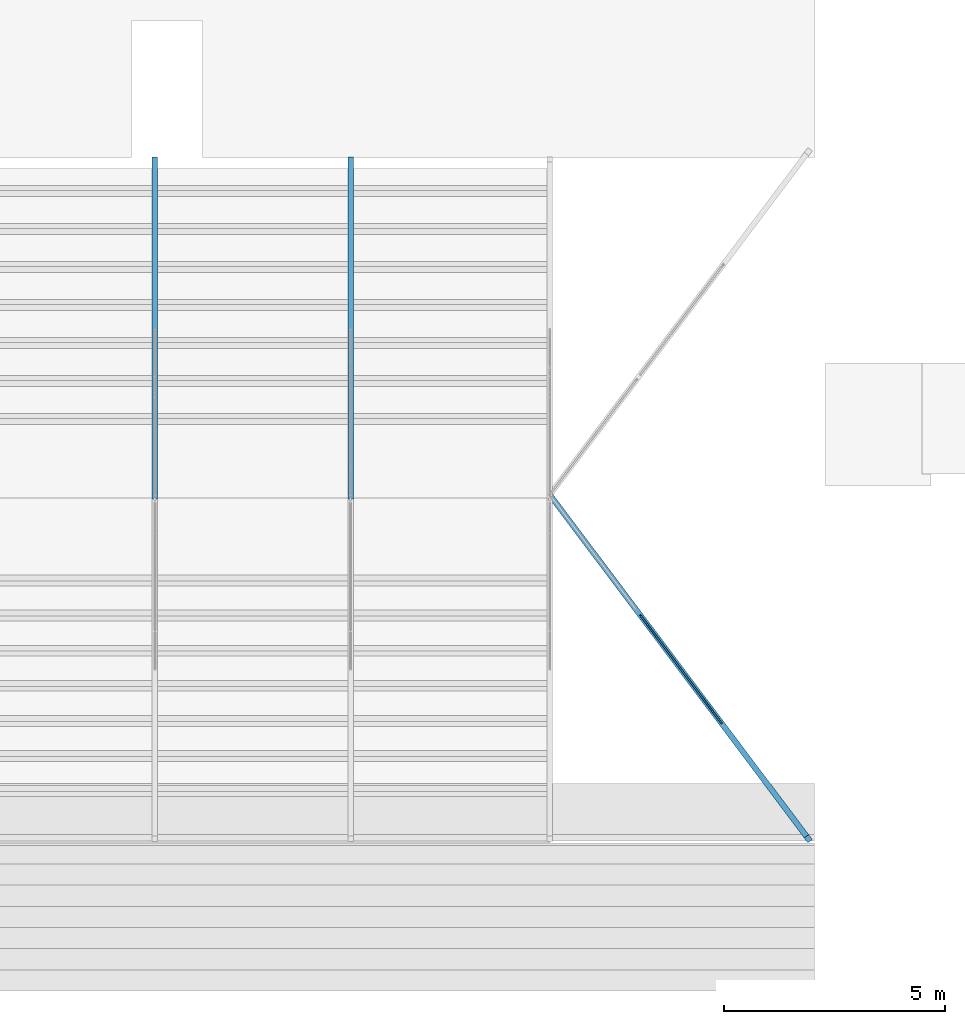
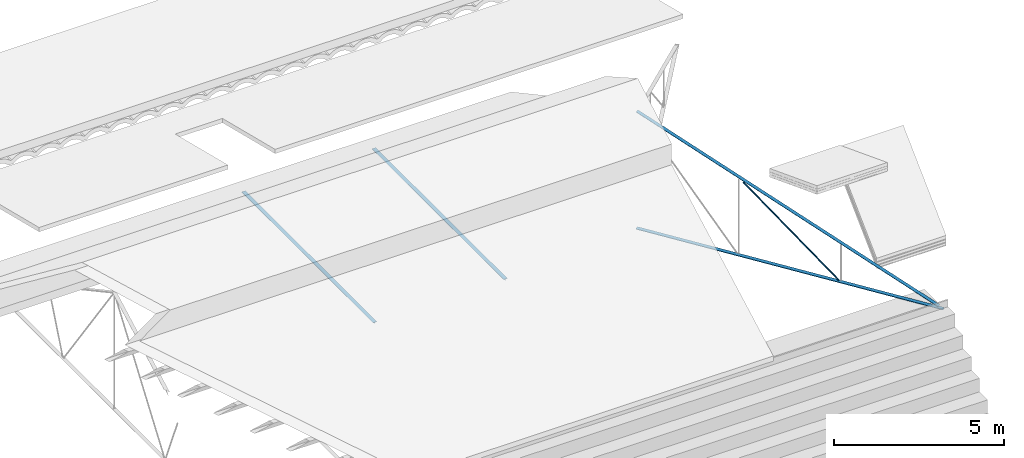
# One storey, part 9 of 15: 4 beams, 1 member, 3 elements without a shape of their own.
"""IFC4 building model written with IfcOpenShell, lengths in metres."""

from ifc_helpers import new_model, entity, si_unit, converted_unit, derived_unit, direction, frame, origin, place, context, subcontext, project, spatial, line, arc, indexed_curve, outline, extrude, source, transform, mapped, material, type_object, type_shapes, element, aggregate, save


model = new_model("IFC4")

# Units and contexts
model_context = context("Model", 3, precision=1e-05, world=origin(), true_north=direction((6.123031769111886e-17, 1.0)))
body_context = subcontext(model_context, "Body", "Model", "MODEL_VIEW")
ifc_project = project(units=[si_unit("LENGTHUNIT", "METRE"), si_unit("AREAUNIT", "SQUARE_METRE"), si_unit("VOLUMEUNIT", "CUBIC_METRE"), converted_unit("PLANEANGLEUNIT", "DEGREE", entity("IfcRatioMeasure", 0.017453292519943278), si_unit("PLANEANGLEUNIT", "RADIAN"), dimensions=[0, 0, 0, 0, 0, 0, 0]), si_unit("MASSUNIT", "GRAM", prefix="KILO"), derived_unit("MASSDENSITYUNIT", [(si_unit("MASSUNIT", "GRAM", prefix="KILO"), 1), (si_unit("LENGTHUNIT", "METRE"), -3)]), derived_unit("MOMENTOFINERTIAUNIT", [(si_unit("LENGTHUNIT", "METRE"), 4)]), si_unit("TIMEUNIT", "SECOND"), si_unit("FREQUENCYUNIT", "HERTZ"), si_unit("THERMODYNAMICTEMPERATUREUNIT", "DEGREE_CELSIUS"), derived_unit("THERMALTRANSMITTANCEUNIT", [(si_unit("MASSUNIT", "GRAM", prefix="KILO"), 1), (si_unit("THERMODYNAMICTEMPERATUREUNIT", "KELVIN"), -1), (si_unit("TIMEUNIT", "SECOND"), -3)]), derived_unit("VOLUMETRICFLOWRATEUNIT", [(si_unit("LENGTHUNIT", "METRE"), 3), (si_unit("TIMEUNIT", "SECOND"), -1)]), derived_unit("MASSFLOWRATEUNIT", [(si_unit("MASSUNIT", "GRAM", prefix="KILO"), 1), (si_unit("TIMEUNIT", "SECOND"), -1)]), derived_unit("ROTATIONALFREQUENCYUNIT", [(si_unit("TIMEUNIT", "SECOND"), -1)]), si_unit("ELECTRICCURRENTUNIT", "AMPERE"), si_unit("ELECTRICVOLTAGEUNIT", "VOLT"), si_unit("POWERUNIT", "WATT"), si_unit("FORCEUNIT", "NEWTON", prefix="KILO"), si_unit("ILLUMINANCEUNIT", "LUX"), si_unit("LUMINOUSFLUXUNIT", "LUMEN"), si_unit("LUMINOUSINTENSITYUNIT", "CANDELA"), derived_unit("USERDEFINED", [(si_unit("MASSUNIT", "GRAM", prefix="KILO"), -1), (si_unit("LENGTHUNIT", "METRE"), -2), (si_unit("TIMEUNIT", "SECOND"), 3), (si_unit("LUMINOUSFLUXUNIT", "LUMEN"), 1)]), derived_unit("SOUNDPOWERUNIT", [(si_unit("MASSUNIT", "GRAM", prefix="KILO"), 1), (si_unit("LENGTHUNIT", "METRE"), 2), (si_unit("TIMEUNIT", "SECOND"), -3)]), derived_unit("SOUNDPRESSUREUNIT", [(si_unit("MASSUNIT", "GRAM", prefix="KILO"), 1), (si_unit("LENGTHUNIT", "METRE"), -1), (si_unit("TIMEUNIT", "SECOND"), -2)]), derived_unit("LINEARVELOCITYUNIT", [(si_unit("LENGTHUNIT", "METRE"), 1), (si_unit("TIMEUNIT", "SECOND"), -1)]), si_unit("PRESSUREUNIT", "PASCAL"), derived_unit("USERDEFINED", [(si_unit("LENGTHUNIT", "METRE"), -2), (si_unit("MASSUNIT", "GRAM", prefix="KILO"), 1), (si_unit("TIMEUNIT", "SECOND"), -2)]), derived_unit("LINEARFORCEUNIT", [(si_unit("MASSUNIT", "GRAM", prefix="KILO"), 1), (si_unit("LENGTHUNIT", "METRE"), 1), (si_unit("TIMEUNIT", "SECOND"), -2), (si_unit("LENGTHUNIT", "METRE"), -1)]), derived_unit("PLANARFORCEUNIT", [(si_unit("MASSUNIT", "GRAM", prefix="KILO"), 1), (si_unit("LENGTHUNIT", "METRE"), 1), (si_unit("TIMEUNIT", "SECOND"), -2), (si_unit("LENGTHUNIT", "METRE"), -2)])], contexts=[model_context])

# Site, building, storey
site_placement = place(None, origin())
site = spatial("IfcSite", under=ifc_project, at=site_placement, Name="Superficie", CompositionType="ELEMENT")
building_placement = place(site_placement, origin())
building = spatial("IfcBuilding", under=site, at=building_placement, CompositionType="ELEMENT")
storey_placement = place(building_placement, frame((0.0, 0.0, 7.25)))
storey = spatial("IfcBuildingStorey", under=building, at=storey_placement, Name="Nivel 2", CompositionType="ELEMENT", Elevation=7.25)

# Assembly, beams, member
assembly_1_placement = place(storey_placement, origin())
assembly_1 = element("IfcElementAssembly", 1, at=assembly_1_placement, inside=storey, Name="Cercha esquina:Cercha esquina", ObjectType="Cercha esquina:Cercha esquina", AssemblyPlace="NOTDEFINED", PredefinedType="TRUSS")
ifc_material = material(Name="Metal - Acero - 345 MPa", Category="Metal")
beam_type_1 = type_object("IfcBeamType", Name="MT-T estructural:MT65X14.05", PredefinedType="BEAM", material=ifc_material)
shared_shape_1 = source(origin(), body_context, "Body", "SweptSolid", [
    extrude(outline(indexed_curve([(-0.019739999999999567, -0.06350000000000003), (-0.009140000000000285, -0.06350000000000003), (-0.009140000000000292, -0.007399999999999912), (-0.008144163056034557, -0.004995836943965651), (-0.0057400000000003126, -0.003999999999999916), (0.043760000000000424, -0.003999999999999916), (0.043760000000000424, 0.004000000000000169), (-0.005740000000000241, 0.004000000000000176), (-0.008144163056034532, 0.004995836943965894), (-0.009140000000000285, 0.007400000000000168), (-0.009140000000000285, 0.06349999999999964), (-0.019739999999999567, 0.06349999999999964)], segments=[line(1, 2, 3), arc(3, 4, 5), line(5, 6, 7, 8), arc(8, 9, 10), line(10, 11, 12, 1)], self_intersect=False)), frame((-4.910000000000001, 0.0, 0.01200999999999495), z_axis=(1.0, 0.0, 0.0), x_axis=(0.0, 0.0, -1.0)), (0.0, 0.0, 1.0), 9.812),
])
type_shapes(beam_type_1, [shared_shape_1])
beam_1_placement = place(assembly_1_placement, frame((17.542073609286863, -5.775864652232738, 0.2016781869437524), z_axis=(0.012681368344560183, -0.016871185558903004, 0.9997772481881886), x_axis=(-0.6007142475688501, 0.7991851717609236, 0.021105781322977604)))
beam_1 = element("IfcBeam", 2, at=beam_1_placement, type_object=beam_type_1, material=ifc_material, Name="MT-T estructural:MT65X14.05", ObjectType="MT-T estructural:MT65X14.05", PredefinedType="BEAM", context=body_context, shape_type="MappedRepresentation", body=[
    mapped(shared_shape_1, transform((0.0, 0.0, 0.0), scale=1.0)),
])
beam_type_2 = type_object("IfcBeamType", Name="MT-T estructural:MT65X14.05", PredefinedType="BEAM", material=ifc_material)
shared_shape_2 = source(origin(), body_context, "Body", "SweptSolid", [
    extrude(outline(indexed_curve([(-0.019739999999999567, -0.06350000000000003), (-0.009140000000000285, -0.06350000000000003), (-0.009140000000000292, -0.007399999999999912), (-0.008144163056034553, -0.004995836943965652), (-0.0057400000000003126, -0.003999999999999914), (0.043760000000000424, -0.003999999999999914), (0.043760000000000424, 0.00400000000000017), (-0.005740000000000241, 0.004000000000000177), (-0.008144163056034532, 0.004995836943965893), (-0.009140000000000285, 0.007400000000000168), (-0.009140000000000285, 0.06349999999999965), (-0.019739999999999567, 0.06349999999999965)], segments=[line(1, 2, 3), arc(3, 4, 5), line(5, 6, 7, 8), arc(8, 9, 10), line(10, 11, 12, 1)], self_intersect=False)), frame((-5.217500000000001, 0.0, 0.01200999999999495), z_axis=(1.0, 0.0, 0.0), x_axis=(0.0, 0.0, -1.0)), (0.0, 0.0, 1.0), 10.591000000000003),
])
type_shapes(beam_type_2, [shared_shape_2])
beam_2_placement = place(assembly_1_placement, frame((17.542073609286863, -5.775864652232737, 2.302569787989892), z_axis=(0.24646699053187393, -0.3278976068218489, 0.9119962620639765), x_axis=(-0.5479712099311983, 0.7290162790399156, 0.4101985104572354)))
beam_2 = element("IfcBeam", 3, at=beam_2_placement, type_object=beam_type_2, material=ifc_material, Name="MT-T estructural:MT65X14.05", ObjectType="MT-T estructural:MT65X14.05", PredefinedType="BEAM", context=body_context, shape_type="MappedRepresentation", body=[
    mapped(shared_shape_2, transform((0.0, 0.0, 0.0), scale=1.0)),
])
member_type = type_object("IfcMemberType", Name="HSS-Sección estructural hueca:HSS41.3X41.3X4.8", PredefinedType="BRACE", material=ifc_material)
shared_shape_3 = source(origin(), body_context, "Body", "SweptSolid", [
    extrude(outline(indexed_curve([(-0.020650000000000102, -0.011809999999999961), (-0.01806082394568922, -0.018060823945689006), (-0.011810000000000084, -0.020649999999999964), (0.011810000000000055, -0.020649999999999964), (0.01806082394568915, -0.01806082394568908), (0.020650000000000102, -0.011809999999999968), (0.020650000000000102, 0.011809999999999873), (0.018060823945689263, 0.018060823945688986), (0.01181000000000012, 0.020649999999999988), (-0.011810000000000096, 0.020649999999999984), (-0.018060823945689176, 0.018060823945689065), (-0.020650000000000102, 0.011810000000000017)], segments=[arc(1, 2, 3), line(3, 4), arc(4, 5, 6), line(6, 7), arc(7, 8, 9), line(9, 10), arc(10, 11, 12), line(12, 1)], self_intersect=False), holes=[indexed_curve([(0.01180999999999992, -0.016230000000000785), (-0.011809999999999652, -0.016230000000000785), (-0.014935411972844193, -0.014935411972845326), (-0.016229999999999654, -0.011810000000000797), (-0.016229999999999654, 0.011809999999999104), (-0.014935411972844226, 0.01493541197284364), (-0.011809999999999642, 0.016229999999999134), (0.011809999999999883, 0.016229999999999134), (0.014935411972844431, 0.014935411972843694), (0.01622999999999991, 0.011809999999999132), (0.01622999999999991, -0.011810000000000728), (0.014935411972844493, -0.014935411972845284)], segments=[line(1, 2), arc(2, 3, 4), line(4, 5), arc(5, 6, 7), line(7, 8), arc(8, 9, 10), line(10, 11), arc(11, 12, 1)], self_intersect=False)]), frame((-2.0875, 0.0, 0.0), z_axis=(1.0, 0.0, 0.0), x_axis=(0.0, -1.0, 0.0)), (0.0, 0.0, 1.0), 4.073),
])
type_shapes(member_type, [shared_shape_3])
member_placement = place(assembly_1_placement, frame((17.54207360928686, -5.7758646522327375, 1.602272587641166), z_axis=(-0.39654287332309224, 0.5275572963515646, -0.7512902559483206), x_axis=(-0.4514113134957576, 0.600553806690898, 0.6599719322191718)))
member = element("IfcMember", 4, at=member_placement, type_object=member_type, material=ifc_material, Name="HSS-Sección estructural hueca:HSS41.3X41.3X4.8", ObjectType="HSS-Sección estructural hueca:HSS41.3X41.3X4.8", PredefinedType="BRACE", context=body_context, shape_type="MappedRepresentation", body=[
    mapped(shared_shape_3, transform((0.0, 0.0, 0.0), scale=1.0)),
])
aggregate(assembly_1, [beam_1, beam_2, member])

# Assembly, beam
assembly_2_placement = place(storey_placement, origin())
assembly_2 = element("IfcElementAssembly", 5, at=assembly_2_placement, inside=storey, Name="Cercha 3:Cercha 3", ObjectType="Cercha 3:Cercha 3", AssemblyPlace="NOTDEFINED", PredefinedType="TRUSS")
beam_type_3 = type_object("IfcBeamType", Name="MT-T estructural:MT65X14.05", PredefinedType="BEAM", material=ifc_material)
shared_shape_4 = source(origin(), body_context, "Body", "SweptSolid", [
    extrude(outline(indexed_curve([(-0.003999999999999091, -0.04376000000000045), (0.004000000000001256, -0.04376000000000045), (0.0040000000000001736, 0.005740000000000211), (0.004995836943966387, 0.008144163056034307), (0.0074000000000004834, 0.009140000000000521), (0.06350000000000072, 0.009140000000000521), (0.06350000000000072, 0.019740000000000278), (-0.06349999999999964, 0.019740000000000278), (-0.06349999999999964, 0.009140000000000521), (-0.007399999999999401, 0.009140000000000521), (-0.004995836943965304, 0.008144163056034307), (-0.003999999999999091, 0.005740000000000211)], segments=[line(1, 2, 3), arc(3, 4, 5), line(5, 6, 7, 8, 9, 10), arc(10, 11, 12), line(12, 1)], self_intersect=False)), frame((5.657348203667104, -1.9592410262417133, 7.370715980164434), z_axis=(0.0, 1.0, 0.0), x_axis=(-1.0, 0.0, 0.0)), (0.0, 0.0, 1.0), 7.744000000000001),
])
type_shapes(beam_type_3, [shared_shape_4])
beam_3_placement = place(assembly_2_placement, frame((0.0, 0.0, -7.25)))
beam_3 = element("IfcBeam", 6, at=beam_3_placement, type_object=beam_type_3, material=ifc_material, Name="MT-T estructural:MT65X14.05", ObjectType="MT-T estructural:MT65X14.05", PredefinedType="BEAM", context=body_context, shape_type="MappedRepresentation", body=[
    mapped(shared_shape_4, transform((0.0, 0.0, 0.0), scale=1.0)),
])
aggregate(assembly_2, [beam_3])

assembly_3_placement = place(storey_placement, origin())
assembly_3 = element("IfcElementAssembly", 7, at=assembly_3_placement, inside=storey, Name="Cercha 3:Cercha 3", ObjectType="Cercha 3:Cercha 3", AssemblyPlace="NOTDEFINED", PredefinedType="TRUSS")
beam_type_4 = type_object("IfcBeamType", Name="MT-T estructural:MT65X14.05", PredefinedType="BEAM", material=ifc_material)
shared_shape_5 = source(origin(), body_context, "Body", "SweptSolid", [
    extrude(outline(indexed_curve([(-0.003999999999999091, -0.04376000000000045), (0.004000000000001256, -0.04376000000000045), (0.004000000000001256, 0.005740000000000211), (0.00499583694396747, 0.008144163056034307), (0.0074000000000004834, 0.009140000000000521), (0.06350000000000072, 0.009140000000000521), (0.06350000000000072, 0.019740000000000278), (-0.06349999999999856, 0.019740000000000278), (-0.06349999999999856, 0.009140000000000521), (-0.007399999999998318, 0.009140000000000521), (-0.004995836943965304, 0.008144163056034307), (-0.003999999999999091, 0.005740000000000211)], segments=[line(1, 2, 3), arc(3, 4, 5), line(5, 6, 7, 8, 9, 10), arc(10, 11, 12), line(12, 1)], self_intersect=False)), frame((10.087348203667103, -1.9592410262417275, 7.370715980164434), z_axis=(0.0, 1.0, 0.0), x_axis=(-1.0, 0.0, 0.0)), (0.0, 0.0, 1.0), 7.744000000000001),
])
type_shapes(beam_type_4, [shared_shape_5])
beam_4_placement = place(assembly_3_placement, frame((0.0, 0.0, -7.25)))
beam_4 = element("IfcBeam", 8, at=beam_4_placement, type_object=beam_type_4, material=ifc_material, Name="MT-T estructural:MT65X14.05", ObjectType="MT-T estructural:MT65X14.05", PredefinedType="BEAM", context=body_context, shape_type="MappedRepresentation", body=[
    mapped(shared_shape_5, transform((0.0, 0.0, 0.0), scale=1.0)),
])
aggregate(assembly_3, [beam_4])

save(model, "model.ifc")
